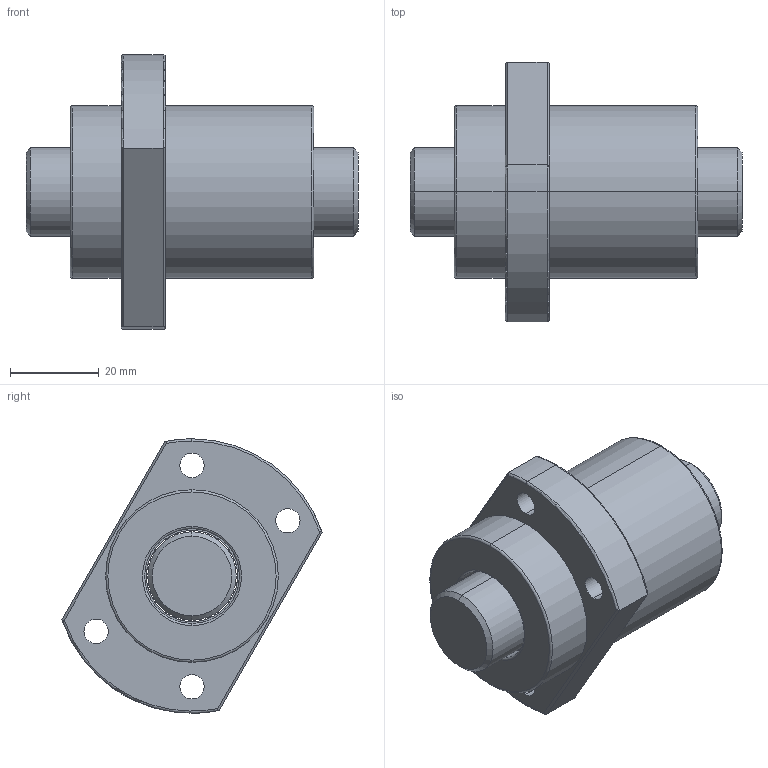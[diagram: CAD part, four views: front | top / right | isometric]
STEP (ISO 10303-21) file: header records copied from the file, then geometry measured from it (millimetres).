
FILE_DESCRIPTION (( 'STEP AP203' ), '1' );
FILE_NAME ('SFTER02020A2D-C.STEP', '2020-06-18T01:56:10', ( '' ), ( '' ), 'SwSTEP 2.0', 'SolidWorks 2013', '' );
FILE_SCHEMA (( 'CONFIG_CONTROL_DESIGN' ));
Length unit declared in the file: millimetre
Products named in the file (1): SFTER02020A2D-C
Bounding box: 75 x 58.76 x 61.98 mm (x, y, z)
Volume: 79539.4 mm3; surface area: 21238.6 mm2
Topology: 2 solids, 4 shells, 81 faces, 173 edges, 108 vertices
Faces by surface type: cylinder 41, plane 22, torus 14, cone 4
Entity records: 2701 total; most frequent: CARTESIAN_POINT 777, DIRECTION 425, ORIENTED_EDGE 346, AXIS2_PLACEMENT_3D 185, EDGE_CURVE 173, VERTEX_POINT 108, EDGE_LOOP 105, CIRCLE 103
